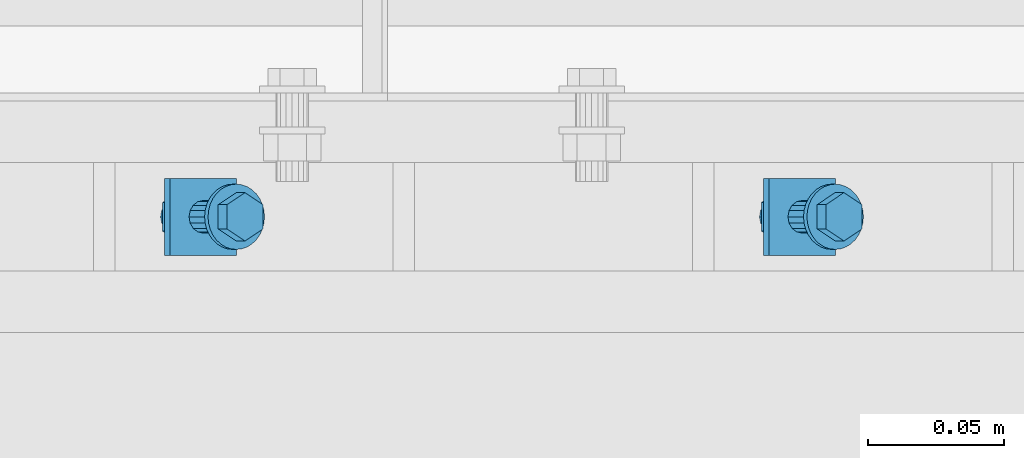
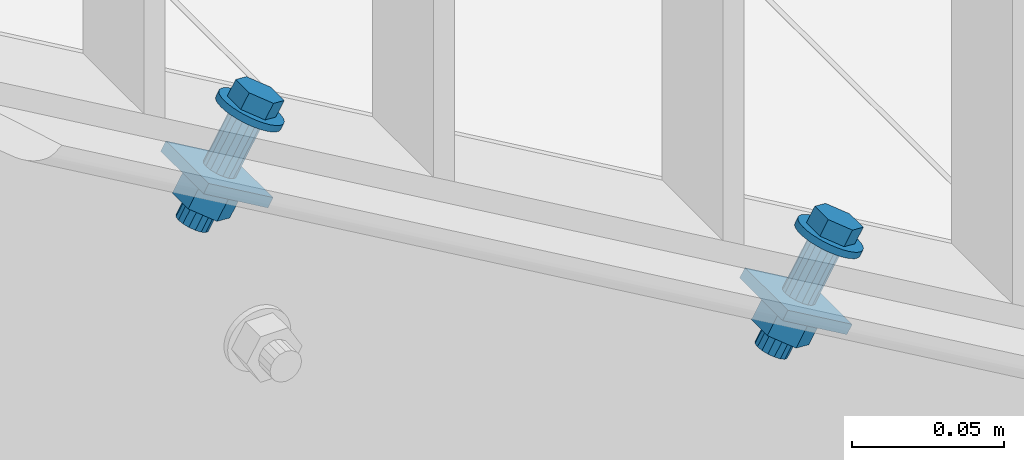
# One storey, part 95 of 145: 2 mechanical fasteners.
"""IFC2X3 building model written with IfcOpenShell, lengths in millimetres."""

from ifc_helpers import new_model, entity, si_unit, converted_unit, origin_with_axes, place, context, project, spatial, faceted_brep, element, save


model = new_model("IFC2X3")

# Units and contexts
model_context = context("Model", 3, precision=1e-09, world=origin_with_axes())
ifc_project = project(units=[si_unit("LENGTHUNIT", "METRE", prefix="MILLI"), si_unit("AREAUNIT", "SQUARE_METRE"), si_unit("VOLUMEUNIT", "CUBIC_METRE"), converted_unit("PLANEANGLEUNIT", "DEGREE", entity("IfcPlaneAngleMeasure", 0.01745329), si_unit("PLANEANGLEUNIT", "RADIAN"), dimensions=[0, 0, 0, 0, 0, 0, 0])], contexts=[model_context])

# Site, building, storey
site_placement = place(None, origin_with_axes())
site = spatial("IfcSite", under=ifc_project, at=site_placement, Name="BZ1 Grund- und Mittelschule 85716 Unterschlei?heim", CompositionType="ELEMENT")
building_placement = place(site_placement, origin_with_axes())
building = spatial("IfcBuilding", under=site, at=building_placement, Name="Struktur 1", CompositionType="ELEMENT")
storey_placement = place(building_placement, origin_with_axes())
storey = spatial("IfcBuildingStorey", under=building, at=storey_placement, Name="Default Storey", CompositionType="ELEMENT", Elevation=0.0)

# Mechanical fasteners
mechanical_fastener_1_placement = place(None, origin_with_axes())
element("IfcMechanicalFastener", 1, at=mechanical_fastener_1_placement, inside=storey, ObjectType="-", NominalDiameter=12.0, NominalLength=45.0, context=model_context, shape_type="Brep", body=[
    faceted_brep([(19800.737886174, -1512.502, 1829.216525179), (19801.994613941, -1512.502, 1831.377690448), (19801.795288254, -1514.843083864, 1831.493599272), (19800.538560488, -1514.843083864, 1829.332434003), (19801.20497117, -1517.094201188, 1831.836871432), (19799.948243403, -1517.094201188, 1829.675706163), (19800.246348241, -1519.168842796, 1832.394315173), (19798.989620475, -1519.168842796, 1830.233149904), (19798.95625881, -1520.987281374, 1833.144508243), (19797.699531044, -1520.987281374, 1830.983342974), (19797.384280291, -1522.479635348, 1834.058621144), (19796.127552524, -1522.479635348, 1831.897455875), (19795.590822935, -1523.58855439, 1835.10152503), (19794.334095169, -1523.58855439, 1832.94035976), (19793.644808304, -1524.271423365, 1836.233141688), (19792.388080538, -1524.271423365, 1834.071976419), (19791.621020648, -1524.502, 1837.409983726), (19790.364292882, -1524.502, 1835.248818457), (19789.597232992, -1524.271423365, 1838.586825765), (19788.340505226, -1524.271423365, 1836.425660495), (19787.651218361, -1523.58855439, 1839.718442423), (19786.394490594, -1523.58855439, 1837.557277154), (19785.857761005, -1522.479635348, 1840.761346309), (19784.601033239, -1522.479635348, 1838.600181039), (19784.285782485, -1520.987281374, 1841.67545921), (19783.029054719, -1520.987281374, 1839.51429394), (19782.995693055, -1519.168842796, 1842.42565228), (19781.738965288, -1519.168842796, 1840.264487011), (19782.037070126, -1517.094201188, 1842.98309602), (19780.78034236, -1517.094201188, 1840.821930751), (19781.446753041, -1514.843083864, 1843.326368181), (19780.190025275, -1514.843083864, 1841.165202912), (19781.247427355, -1512.502, 1843.442277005), (19779.990699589, -1512.502, 1841.281111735), (19781.446753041, -1510.160916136, 1843.326368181), (19780.190025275, -1510.160916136, 1841.165202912), (19782.037070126, -1507.909798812, 1842.98309602), (19780.78034236, -1507.909798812, 1840.821930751), (19782.995693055, -1505.835157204, 1842.42565228), (19781.738965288, -1505.835157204, 1840.264487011), (19784.285782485, -1504.016718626, 1841.67545921), (19783.029054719, -1504.016718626, 1839.51429394), (19785.857761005, -1502.524364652, 1840.761346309), (19784.601033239, -1502.524364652, 1838.600181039), (19787.651218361, -1501.41544561, 1839.718442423), (19786.394490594, -1501.41544561, 1837.557277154), (19789.597232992, -1500.732576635, 1838.586825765), (19788.340505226, -1500.732576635, 1836.425660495), (19791.621020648, -1500.502, 1837.409983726), (19790.364292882, -1500.502, 1835.248818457), (19793.644808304, -1500.732576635, 1836.233141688), (19792.388080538, -1500.732576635, 1834.071976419), (19795.590822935, -1501.41544561, 1835.10152503), (19794.334095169, -1501.41544561, 1832.94035976), (19797.384280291, -1502.524364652, 1834.058621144), (19796.127552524, -1502.524364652, 1831.897455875), (19798.95625881, -1504.016718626, 1833.144508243), (19797.699531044, -1504.016718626, 1830.983342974), (19800.246348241, -1505.835157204, 1832.394315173), (19798.989620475, -1505.835157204, 1830.233149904), (19801.20497117, -1507.909798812, 1831.836871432), (19799.948243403, -1507.909798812, 1829.675706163), (19801.795288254, -1510.160916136, 1831.493599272), (19800.538560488, -1510.160916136, 1829.332434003)], [[[0, 1, 2, 3]], [[3, 2, 4, 5]], [[5, 4, 6, 7]], [[7, 6, 8, 9]], [[9, 8, 10, 11]], [[11, 10, 12, 13]], [[13, 12, 14, 15]], [[15, 14, 16, 17]], [[17, 16, 18, 19]], [[19, 18, 20, 21]], [[21, 20, 22, 23]], [[23, 22, 24, 25]], [[25, 24, 26, 27]], [[27, 26, 28, 29]], [[29, 28, 30, 31]], [[31, 30, 32, 33]], [[33, 32, 34, 35]], [[35, 34, 36, 37]], [[37, 36, 38, 39]], [[39, 38, 40, 41]], [[41, 40, 42, 43]], [[43, 42, 44, 45]], [[45, 44, 46, 47]], [[47, 46, 48, 49]], [[49, 48, 50, 51]], [[51, 50, 52, 53]], [[53, 52, 54, 55]], [[55, 54, 56, 57]], [[57, 56, 58, 59]], [[59, 58, 60, 61]], [[61, 60, 62, 63]], [[63, 62, 1, 0]], [[2, 1, 62, 60, 58, 56, 54, 52, 50, 48, 46, 44, 42, 40, 38, 36, 34, 32, 30, 28, 26, 24, 22, 20, 18, 16, 14, 12, 10, 8, 6, 4]], [[63, 0, 3, 5, 7, 9, 11, 13, 15, 17, 19, 21, 23, 25, 27, 29, 31, 33, 35, 37, 39, 41, 43, 45, 47, 49, 51, 53, 55, 57, 59, 61]]]),
    faceted_brep([(19788.186491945, -1516.9445, 1846.810591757), (19784.969268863, -1516.9445, 1841.278008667), (19791.621020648, -1521.387, 1837.409983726), (19794.83824373, -1521.387, 1842.942566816), (19798.272772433, -1516.9445, 1833.541958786), (19801.489995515, -1516.9445, 1839.074541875), (19798.272772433, -1508.0595, 1833.541958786), (19801.489995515, -1508.0595, 1839.074541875), (19791.621020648, -1503.617, 1837.409983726), (19794.83824373, -1503.617, 1842.942566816), (19784.969268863, -1508.0595, 1841.278008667), (19788.186491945, -1508.0595, 1846.810591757)], [[[0, 1, 2, 3]], [[3, 2, 4, 5]], [[5, 4, 6, 7]], [[7, 6, 8, 9]], [[9, 8, 10, 11]], [[11, 10, 1, 0]], [[3, 5, 7, 9, 11, 0]], [[2, 1, 10, 8, 6, 4]]]),
    faceted_brep([(19784.651327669, -1512.502, 1813.48860695), (19795.551089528, -1512.502, 1832.232671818), (19795.156268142, -1514.798100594, 1832.46226231), (19784.256506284, -1514.798100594, 1813.718197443), (19794.031911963, -1516.744640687, 1833.116080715), (19783.132150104, -1516.744640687, 1814.372015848), (19792.349194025, -1518.045277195, 1834.094589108), (19781.449432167, -1518.045277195, 1815.350524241), (19790.364292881, -1518.502, 1835.248818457), (19779.464531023, -1518.502, 1816.50475359), (19788.379391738, -1518.045277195, 1836.403047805), (19777.479629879, -1518.045277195, 1817.658982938), (19786.6966738, -1516.744640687, 1837.381556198), (19775.796911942, -1516.744640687, 1818.637491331), (19785.572317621, -1514.798100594, 1838.035374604), (19774.672555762, -1514.798100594, 1819.291309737), (19785.177496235, -1512.502, 1838.264965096), (19774.277734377, -1512.502, 1819.520900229), (19785.572317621, -1510.205899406, 1838.035374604), (19774.672555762, -1510.205899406, 1819.291309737), (19786.6966738, -1508.259359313, 1837.381556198), (19775.796911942, -1508.259359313, 1818.637491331), (19788.379391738, -1506.958722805, 1836.403047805), (19777.479629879, -1506.958722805, 1817.658982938), (19790.364292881, -1506.502, 1835.248818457), (19779.464531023, -1506.502, 1816.50475359), (19792.349194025, -1506.958722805, 1834.094589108), (19781.449432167, -1506.958722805, 1815.350524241), (19794.031911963, -1508.259359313, 1833.116080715), (19783.132150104, -1508.259359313, 1814.372015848), (19795.156268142, -1510.205899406, 1832.46226231), (19784.256506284, -1510.205899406, 1813.718197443)], [[[0, 1, 2, 3]], [[3, 2, 4, 5]], [[5, 4, 6, 7]], [[7, 6, 8, 9]], [[9, 8, 10, 11]], [[11, 10, 12, 13]], [[13, 12, 14, 15]], [[15, 14, 16, 17]], [[17, 16, 18, 19]], [[19, 18, 20, 21]], [[21, 20, 22, 23]], [[23, 22, 24, 25]], [[25, 24, 26, 27]], [[27, 26, 28, 29]], [[29, 28, 30, 31]], [[31, 30, 1, 0]], [[2, 1, 30, 28, 26, 24, 22, 20, 18, 16, 14, 12, 10, 8, 6, 4]], [[31, 0, 3, 5, 7, 9, 11, 13, 15, 17, 19, 21, 23, 25, 27, 29]]]),
    faceted_brep([(19767.239134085, -1526.644135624, 1823.613879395), (19765.228369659, -1526.644135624, 1820.156014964), (19789.679163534, -1526.644135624, 1805.937763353), (19791.689927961, -1526.644135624, 1809.395627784), (19789.679163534, -1498.359864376, 1805.937763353), (19791.689927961, -1498.359864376, 1809.395627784), (19765.228369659, -1498.359864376, 1820.156014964), (19767.239134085, -1498.359864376, 1823.613879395)], [[[0, 1, 2, 3]], [[3, 2, 4, 5]], [[5, 4, 6, 7]], [[7, 6, 1, 0]], [[3, 5, 7, 0]], [[2, 1, 6, 4]]]),
    faceted_brep([(19769.555513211, -1517.777, 1817.639760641), (19764.528602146, -1517.777, 1808.995099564), (19772.426855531, -1523.052, 1804.402228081), (19777.453766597, -1523.052, 1813.046889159), (19780.325108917, -1517.777, 1799.809356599), (19785.352019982, -1517.777, 1808.454017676), (19780.325108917, -1507.227, 1799.809356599), (19785.352019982, -1507.227, 1808.454017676), (19772.426855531, -1501.952, 1804.402228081), (19777.453766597, -1501.952, 1813.046889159), (19764.528602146, -1507.227, 1808.995099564), (19769.555513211, -1507.227, 1817.639760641)], [[[0, 1, 2, 3]], [[3, 2, 4, 5]], [[5, 4, 6, 7]], [[7, 6, 8, 9]], [[9, 8, 10, 11]], [[11, 10, 1, 0]], [[3, 5, 7, 9, 11, 0]], [[2, 1, 10, 8, 6, 4]]]),
    faceted_brep([(19774.1867175, -1512.502, 1795.492862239), (19777.613652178, -1512.502, 1801.386081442), (19777.218830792, -1514.798100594, 1801.615671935), (19773.791896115, -1514.798100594, 1795.722452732), (19776.094474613, -1516.744640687, 1802.26949034), (19772.667539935, -1516.744640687, 1796.376271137), (19774.411756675, -1518.045277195, 1803.247998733), (19770.984821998, -1518.045277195, 1797.35477953), (19772.426855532, -1518.502, 1804.402228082), (19768.999920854, -1518.502, 1798.509008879), (19770.441954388, -1518.045277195, 1805.55645743), (19767.01501971, -1518.045277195, 1799.663238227), (19768.75923645, -1516.744640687, 1806.534965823), (19765.332301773, -1516.744640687, 1800.64174662), (19767.634880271, -1514.798100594, 1807.188784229), (19764.207945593, -1514.798100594, 1801.295565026), (19767.240058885, -1512.502, 1807.418374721), (19763.813124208, -1512.502, 1801.525155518), (19767.634880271, -1510.205899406, 1807.188784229), (19764.207945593, -1510.205899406, 1801.295565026), (19768.75923645, -1508.259359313, 1806.534965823), (19765.332301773, -1508.259359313, 1800.64174662), (19770.441954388, -1506.958722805, 1805.55645743), (19767.01501971, -1506.958722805, 1799.663238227), (19772.426855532, -1506.502, 1804.402228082), (19768.999920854, -1506.502, 1798.509008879), (19774.411756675, -1506.958722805, 1803.247998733), (19770.984821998, -1506.958722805, 1797.35477953), (19776.094474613, -1508.259359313, 1802.26949034), (19772.667539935, -1508.259359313, 1796.376271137), (19777.218830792, -1510.205899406, 1801.615671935), (19773.791896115, -1510.205899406, 1795.722452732)], [[[0, 1, 2, 3]], [[3, 2, 4, 5]], [[5, 4, 6, 7]], [[7, 6, 8, 9]], [[9, 8, 10, 11]], [[11, 10, 12, 13]], [[13, 12, 14, 15]], [[15, 14, 16, 17]], [[17, 16, 18, 19]], [[19, 18, 20, 21]], [[21, 20, 22, 23]], [[23, 22, 24, 25]], [[25, 24, 26, 27]], [[27, 26, 28, 29]], [[29, 28, 30, 31]], [[31, 30, 1, 0]], [[2, 1, 30, 28, 26, 24, 22, 20, 18, 16, 14, 12, 10, 8, 6, 4]], [[31, 0, 3, 5, 7, 9, 11, 13, 15, 17, 19, 21, 23, 25, 27, 29]]]),
])
mechanical_fastener_2_placement = place(None, origin_with_axes())
element("IfcMechanicalFastener", 2, at=mechanical_fastener_2_placement, inside=storey, ObjectType="-", NominalDiameter=12.0, NominalLength=45.0, context=model_context, shape_type="Brep", body=[
    faceted_brep([(19580.737886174, -1512.502, 1957.147559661), (19581.994613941, -1512.502, 1959.308724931), (19581.795288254, -1514.843083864, 1959.424633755), (19580.538560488, -1514.843083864, 1957.263468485), (19581.20497117, -1517.094201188, 1959.767905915), (19579.948243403, -1517.094201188, 1957.606740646), (19580.246348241, -1519.168842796, 1960.325349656), (19578.989620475, -1519.168842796, 1958.164184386), (19578.95625881, -1520.987281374, 1961.075542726), (19577.699531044, -1520.987281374, 1958.914377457), (19577.384280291, -1522.479635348, 1961.989655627), (19576.127552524, -1522.479635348, 1959.828490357), (19575.590822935, -1523.58855439, 1963.032559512), (19574.334095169, -1523.58855439, 1960.871394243), (19573.644808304, -1524.271423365, 1964.164176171), (19572.388080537, -1524.271423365, 1962.003010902), (19571.621020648, -1524.502, 1965.341018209), (19570.364292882, -1524.502, 1963.17985294), (19569.597232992, -1524.271423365, 1966.517860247), (19568.340505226, -1524.271423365, 1964.356694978), (19567.651218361, -1523.58855439, 1967.649476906), (19566.394490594, -1523.58855439, 1965.488311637), (19565.857761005, -1522.479635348, 1968.692380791), (19564.601033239, -1522.479635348, 1966.531215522), (19564.285782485, -1520.987281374, 1969.606493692), (19563.029054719, -1520.987281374, 1967.445328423), (19562.995693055, -1519.168842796, 1970.356686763), (19561.738965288, -1519.168842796, 1968.195521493), (19562.037070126, -1517.094201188, 1970.914130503), (19560.78034236, -1517.094201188, 1968.752965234), (19561.446753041, -1514.843083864, 1971.257402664), (19560.190025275, -1514.843083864, 1969.096237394), (19561.247427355, -1512.502, 1971.373311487), (19559.990699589, -1512.502, 1969.212146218), (19561.446753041, -1510.160916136, 1971.257402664), (19560.190025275, -1510.160916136, 1969.096237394), (19562.037070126, -1507.909798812, 1970.914130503), (19560.78034236, -1507.909798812, 1968.752965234), (19562.995693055, -1505.835157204, 1970.356686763), (19561.738965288, -1505.835157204, 1968.195521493), (19564.285782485, -1504.016718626, 1969.606493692), (19563.029054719, -1504.016718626, 1967.445328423), (19565.857761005, -1502.524364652, 1968.692380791), (19564.601033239, -1502.524364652, 1966.531215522), (19567.651218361, -1501.41544561, 1967.649476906), (19566.394490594, -1501.41544561, 1965.488311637), (19569.597232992, -1500.732576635, 1966.517860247), (19568.340505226, -1500.732576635, 1964.356694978), (19571.621020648, -1500.502, 1965.341018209), (19570.364292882, -1500.502, 1963.17985294), (19573.644808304, -1500.732576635, 1964.164176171), (19572.388080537, -1500.732576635, 1962.003010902), (19575.590822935, -1501.41544561, 1963.032559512), (19574.334095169, -1501.41544561, 1960.871394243), (19577.384280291, -1502.524364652, 1961.989655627), (19576.127552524, -1502.524364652, 1959.828490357), (19578.95625881, -1504.016718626, 1961.075542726), (19577.699531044, -1504.016718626, 1958.914377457), (19580.246348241, -1505.835157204, 1960.325349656), (19578.989620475, -1505.835157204, 1958.164184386), (19581.20497117, -1507.909798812, 1959.767905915), (19579.948243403, -1507.909798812, 1957.606740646), (19581.795288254, -1510.160916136, 1959.424633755), (19580.538560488, -1510.160916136, 1957.263468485)], [[[0, 1, 2, 3]], [[3, 2, 4, 5]], [[5, 4, 6, 7]], [[7, 6, 8, 9]], [[9, 8, 10, 11]], [[11, 10, 12, 13]], [[13, 12, 14, 15]], [[15, 14, 16, 17]], [[17, 16, 18, 19]], [[19, 18, 20, 21]], [[21, 20, 22, 23]], [[23, 22, 24, 25]], [[25, 24, 26, 27]], [[27, 26, 28, 29]], [[29, 28, 30, 31]], [[31, 30, 32, 33]], [[33, 32, 34, 35]], [[35, 34, 36, 37]], [[37, 36, 38, 39]], [[39, 38, 40, 41]], [[41, 40, 42, 43]], [[43, 42, 44, 45]], [[45, 44, 46, 47]], [[47, 46, 48, 49]], [[49, 48, 50, 51]], [[51, 50, 52, 53]], [[53, 52, 54, 55]], [[55, 54, 56, 57]], [[57, 56, 58, 59]], [[59, 58, 60, 61]], [[61, 60, 62, 63]], [[63, 62, 1, 0]], [[2, 1, 62, 60, 58, 56, 54, 52, 50, 48, 46, 44, 42, 40, 38, 36, 34, 32, 30, 28, 26, 24, 22, 20, 18, 16, 14, 12, 10, 8, 6, 4]], [[63, 0, 3, 5, 7, 9, 11, 13, 15, 17, 19, 21, 23, 25, 27, 29, 31, 33, 35, 37, 39, 41, 43, 45, 47, 49, 51, 53, 55, 57, 59, 61]]]),
    faceted_brep([(19568.186491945, -1516.9445, 1974.741626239), (19564.969268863, -1516.9445, 1969.20904315), (19571.621020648, -1521.387, 1965.341018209), (19574.83824373, -1521.387, 1970.873601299), (19578.272772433, -1516.9445, 1961.472993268), (19581.489995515, -1516.9445, 1967.005576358), (19578.272772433, -1508.0595, 1961.472993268), (19581.489995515, -1508.0595, 1967.005576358), (19571.621020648, -1503.617, 1965.341018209), (19574.83824373, -1503.617, 1970.873601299), (19564.969268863, -1508.0595, 1969.20904315), (19568.186491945, -1508.0595, 1974.741626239)], [[[0, 1, 2, 3]], [[3, 2, 4, 5]], [[5, 4, 6, 7]], [[7, 6, 8, 9]], [[9, 8, 10, 11]], [[11, 10, 1, 0]], [[3, 5, 7, 9, 11, 0]], [[2, 1, 10, 8, 6, 4]]]),
    faceted_brep([(19564.651327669, -1512.502, 1941.419641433), (19575.551089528, -1512.502, 1960.1637063), (19575.156268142, -1514.798100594, 1960.393296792), (19564.256506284, -1514.798100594, 1941.649231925), (19574.031911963, -1516.744640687, 1961.047115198), (19563.132150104, -1516.744640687, 1942.303050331), (19572.349194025, -1518.045277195, 1962.025623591), (19561.449432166, -1518.045277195, 1943.281558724), (19570.364292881, -1518.502, 1963.179852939), (19559.464531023, -1518.502, 1944.435788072), (19568.379391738, -1518.045277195, 1964.334082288), (19557.479629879, -1518.045277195, 1945.590017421), (19566.6966738, -1516.744640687, 1965.312590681), (19555.796911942, -1516.744640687, 1946.568525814), (19565.57231762, -1514.798100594, 1965.966409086), (19554.672555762, -1514.798100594, 1947.222344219), (19565.177496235, -1512.502, 1966.195999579), (19554.277734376, -1512.502, 1947.451934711), (19565.57231762, -1510.205899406, 1965.966409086), (19554.672555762, -1510.205899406, 1947.222344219), (19566.6966738, -1508.259359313, 1965.312590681), (19555.796911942, -1508.259359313, 1946.568525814), (19568.379391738, -1506.958722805, 1964.334082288), (19557.479629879, -1506.958722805, 1945.590017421), (19570.364292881, -1506.502, 1963.179852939), (19559.464531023, -1506.502, 1944.435788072), (19572.349194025, -1506.958722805, 1962.025623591), (19561.449432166, -1506.958722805, 1943.281558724), (19574.031911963, -1508.259359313, 1961.047115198), (19563.132150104, -1508.259359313, 1942.303050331), (19575.156268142, -1510.205899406, 1960.393296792), (19564.256506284, -1510.205899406, 1941.649231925)], [[[0, 1, 2, 3]], [[3, 2, 4, 5]], [[5, 4, 6, 7]], [[7, 6, 8, 9]], [[9, 8, 10, 11]], [[11, 10, 12, 13]], [[13, 12, 14, 15]], [[15, 14, 16, 17]], [[17, 16, 18, 19]], [[19, 18, 20, 21]], [[21, 20, 22, 23]], [[23, 22, 24, 25]], [[25, 24, 26, 27]], [[27, 26, 28, 29]], [[29, 28, 30, 31]], [[31, 30, 1, 0]], [[2, 1, 30, 28, 26, 24, 22, 20, 18, 16, 14, 12, 10, 8, 6, 4]], [[31, 0, 3, 5, 7, 9, 11, 13, 15, 17, 19, 21, 23, 25, 27, 29]]]),
    faceted_brep([(19547.239134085, -1526.644135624, 1951.544913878), (19545.228369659, -1526.644135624, 1948.087049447), (19569.679163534, -1526.644135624, 1933.868797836), (19571.68992796, -1526.644135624, 1937.326662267), (19569.679163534, -1498.359864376, 1933.868797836), (19571.68992796, -1498.359864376, 1937.326662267), (19545.228369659, -1498.359864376, 1948.087049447), (19547.239134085, -1498.359864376, 1951.544913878)], [[[0, 1, 2, 3]], [[3, 2, 4, 5]], [[5, 4, 6, 7]], [[7, 6, 1, 0]], [[3, 5, 7, 0]], [[2, 1, 6, 4]]]),
    faceted_brep([(19549.555513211, -1517.777, 1945.570795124), (19544.528602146, -1517.777, 1936.926134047), (19552.426855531, -1523.052, 1932.333262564), (19557.453766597, -1523.052, 1940.977923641), (19560.325108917, -1517.777, 1927.740391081), (19565.352019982, -1517.777, 1936.385052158), (19560.325108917, -1507.227, 1927.740391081), (19565.352019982, -1507.227, 1936.385052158), (19552.426855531, -1501.952, 1932.333262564), (19557.453766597, -1501.952, 1940.977923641), (19544.528602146, -1507.227, 1936.926134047), (19549.555513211, -1507.227, 1945.570795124)], [[[0, 1, 2, 3]], [[3, 2, 4, 5]], [[5, 4, 6, 7]], [[7, 6, 8, 9]], [[9, 8, 10, 11]], [[11, 10, 1, 0]], [[3, 5, 7, 9, 11, 0]], [[2, 1, 10, 8, 6, 4]]]),
    faceted_brep([(19554.1867175, -1512.502, 1923.423896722), (19557.613652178, -1512.502, 1929.317115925), (19557.218830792, -1514.798100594, 1929.546706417), (19553.791896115, -1514.798100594, 1923.653487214), (19556.094474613, -1516.744640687, 1930.200524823), (19552.667539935, -1516.744640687, 1924.30730562), (19554.411756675, -1518.045277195, 1931.179033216), (19550.984821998, -1518.045277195, 1925.285814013), (19552.426855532, -1518.502, 1932.333262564), (19548.999920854, -1518.502, 1926.440043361), (19550.441954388, -1518.045277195, 1933.487491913), (19547.01501971, -1518.045277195, 1927.59427271), (19548.75923645, -1516.744640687, 1934.466000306), (19545.332301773, -1516.744640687, 1928.572781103), (19547.634880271, -1514.798100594, 1935.119818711), (19544.207945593, -1514.798100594, 1929.226599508), (19547.240058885, -1512.502, 1935.349409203), (19543.813124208, -1512.502, 1929.45619), (19547.634880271, -1510.205899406, 1935.119818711), (19544.207945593, -1510.205899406, 1929.226599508), (19548.75923645, -1508.259359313, 1934.466000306), (19545.332301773, -1508.259359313, 1928.572781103), (19550.441954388, -1506.958722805, 1933.487491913), (19547.01501971, -1506.958722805, 1927.59427271), (19552.426855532, -1506.502, 1932.333262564), (19548.999920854, -1506.502, 1926.440043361), (19554.411756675, -1506.958722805, 1931.179033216), (19550.984821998, -1506.958722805, 1925.285814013), (19556.094474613, -1508.259359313, 1930.200524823), (19552.667539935, -1508.259359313, 1924.30730562), (19557.218830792, -1510.205899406, 1929.546706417), (19553.791896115, -1510.205899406, 1923.653487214)], [[[0, 1, 2, 3]], [[3, 2, 4, 5]], [[5, 4, 6, 7]], [[7, 6, 8, 9]], [[9, 8, 10, 11]], [[11, 10, 12, 13]], [[13, 12, 14, 15]], [[15, 14, 16, 17]], [[17, 16, 18, 19]], [[19, 18, 20, 21]], [[21, 20, 22, 23]], [[23, 22, 24, 25]], [[25, 24, 26, 27]], [[27, 26, 28, 29]], [[29, 28, 30, 31]], [[31, 30, 1, 0]], [[2, 1, 30, 28, 26, 24, 22, 20, 18, 16, 14, 12, 10, 8, 6, 4]], [[31, 0, 3, 5, 7, 9, 11, 13, 15, 17, 19, 21, 23, 25, 27, 29]]]),
])

save(model, "model.ifc")
